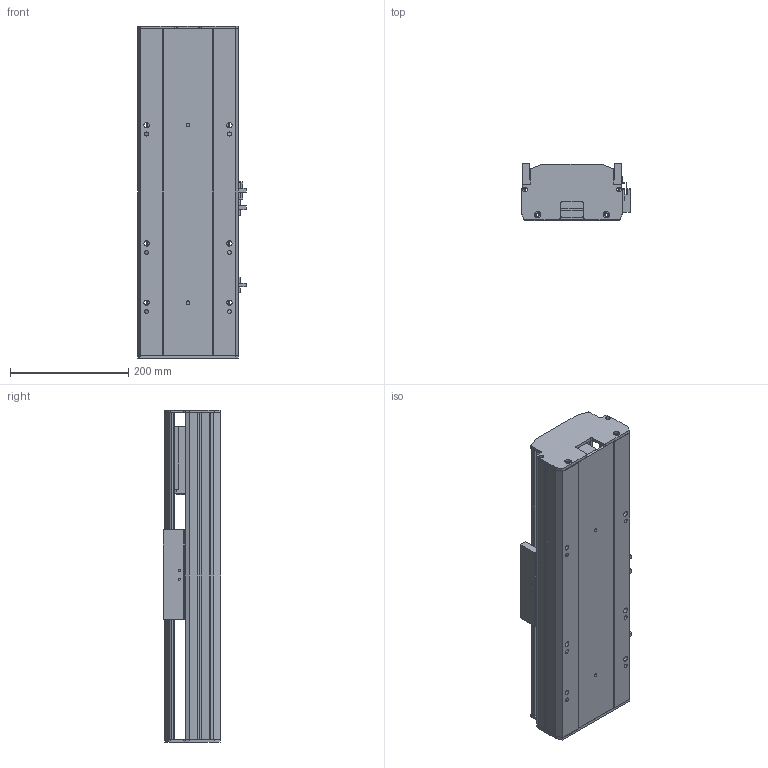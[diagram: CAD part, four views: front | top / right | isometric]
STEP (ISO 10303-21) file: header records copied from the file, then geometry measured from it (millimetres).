
FILE_DESCRIPTION (( 'STEP AP203' ), '1' );
FILE_NAME ('Y170-D10-S150-M-P400W.STEP', '2020-01-22T12:17:34', ( '微软用户' ), ( '微软中国' ), 'SwSTEP 2.0', 'SolidWorks 2017', '' );
FILE_SCHEMA (( 'CONFIG_CONTROL_DESIGN' ));
Length unit declared in the file: millimetre
Products named in the file (10): Y170耜裔--準---M; san松下电机400不带刹车----; Y170-陔遴奻裔-M; YD-Y100-135-新外置传感挡片(通用）; Y170-D10-S150-M-P400W; Y100-135俋离換覜ん; 135-盓傅釱-FK15; Y170耜裔--準---; Y170--雄赽釱-梓--; 170--掛极-M
Assembly tree (11 placements, depth 2):
  Y170-D10-S150-M-P400W
    YD-Y100-135-新外置传感挡片(通用）
    Y100-135俋离換覜ん  x3
    135-盓傅釱-FK15
    Y170耜裔--準---
    Y170--雄赽釱-梓--
    170--掛极-M
    Y170耜裔--準---M
    san松下电机400不带刹车----
    Y170-陔遴奻裔-M
Bounding box: 183.5 x 97 x 561 mm (x, y, z)
Volume: 2878888.6 mm3; surface area: 958317.4 mm2
Topology: 11 solids, 11 shells, 749 faces, 2084 edges, 1380 vertices
Faces by surface type: plane 384, cylinder 363, torus 2
Entity records: 23740 total; most frequent: CARTESIAN_POINT 4073, DIRECTION 3982, ORIENTED_EDGE 3832, EDGE_CURVE 1916, AXIS2_PLACEMENT_3D 1401, VERTEX_POINT 1268, LINE 1180, VECTOR 1180
